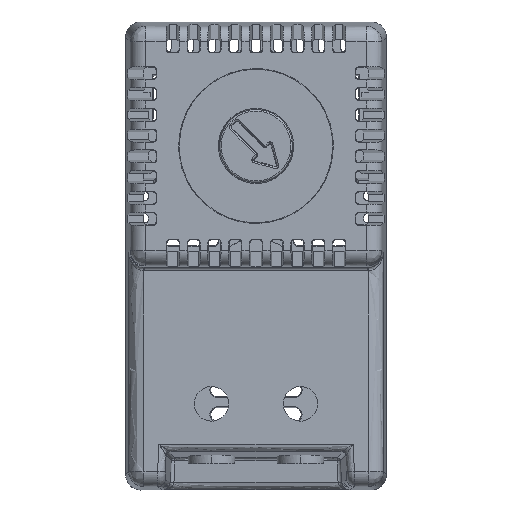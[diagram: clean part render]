
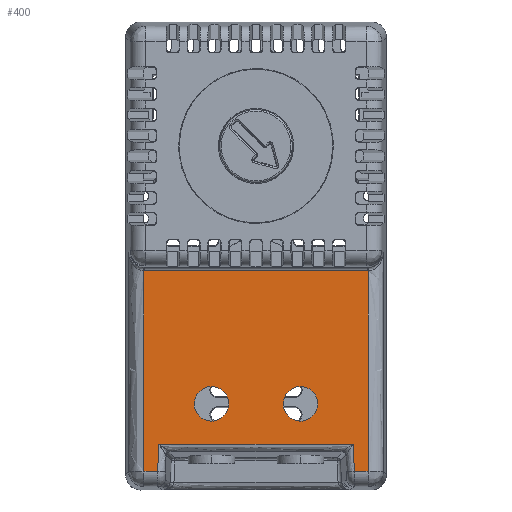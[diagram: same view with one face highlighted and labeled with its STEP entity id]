
A CAD part, top view. The second image highlights one B-rep face of the part: STEP entity #400.
In plain terms, the highlighted planar face has unit normal (0, 0, -1).
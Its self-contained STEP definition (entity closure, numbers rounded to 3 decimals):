
#38=FACE_BOUND($,#2435,.T.);
#39=FACE_BOUND($,#2436,.T.);
#400=ADVANCED_FACE($,(#1410,#38,#39),#15502,.T.);
#1410=FACE_OUTER_BOUND($,#2434,.T.);
#2434=EDGE_LOOP($,(#5380,#5381,#5382,#5383,#5384,#5385,#5386,#5387,#5388,
#5389));
#2435=EDGE_LOOP($,(#5390,#5391));
#2436=EDGE_LOOP($,(#5392,#5393));
#5380=ORIENTED_EDGE($,*,*,#10903,.T.);
#5381=ORIENTED_EDGE($,*,*,#11131,.F.);
#5382=ORIENTED_EDGE($,*,*,#11130,.F.);
#5383=ORIENTED_EDGE($,*,*,#10676,.T.);
#5384=ORIENTED_EDGE($,*,*,#11129,.F.);
#5385=ORIENTED_EDGE($,*,*,#11128,.F.);
#5386=ORIENTED_EDGE($,*,*,#10716,.T.);
#5387=ORIENTED_EDGE($,*,*,#11275,.F.);
#5388=ORIENTED_EDGE($,*,*,#10902,.F.);
#5389=ORIENTED_EDGE($,*,*,#10899,.F.);
#5390=ORIENTED_EDGE($,*,*,#11075,.F.);
#5391=ORIENTED_EDGE($,*,*,#11076,.F.);
#5392=ORIENTED_EDGE($,*,*,#11079,.F.);
#5393=ORIENTED_EDGE($,*,*,#11078,.F.);
#10676=EDGE_CURVE($,#13878,#13879,#16977,.T.);
#10716=EDGE_CURVE($,#13905,#13906,#17013,.T.);
#10899=EDGE_CURVE($,#13977,#13978,#19191,.T.);
#10902=EDGE_CURVE($,#13978,#13979,#17161,.T.);
#10903=EDGE_CURVE($,#13977,#13916,#17162,.T.);
#11075=EDGE_CURVE($,#14070,#14071,#19223,.T.);
#11076=EDGE_CURVE($,#14071,#14070,#19224,.T.);
#11078=EDGE_CURVE($,#14072,#14073,#19225,.T.);
#11079=EDGE_CURVE($,#14073,#14072,#19226,.T.);
#11128=EDGE_CURVE($,#13905,#14099,#17351,.T.);
#11129=EDGE_CURVE($,#14099,#13879,#17352,.T.);
#11130=EDGE_CURVE($,#13878,#13915,#17353,.T.);
#11131=EDGE_CURVE($,#13915,#13916,#17354,.T.);
#11275=EDGE_CURVE($,#13979,#13906,#19237,.T.);
#13878=VERTEX_POINT($,#28530);
#13879=VERTEX_POINT($,#28531);
#13905=VERTEX_POINT($,#28557);
#13906=VERTEX_POINT($,#28558);
#13915=VERTEX_POINT($,#28567);
#13916=VERTEX_POINT($,#28568);
#13977=VERTEX_POINT($,#28629);
#13978=VERTEX_POINT($,#28630);
#13979=VERTEX_POINT($,#28631);
#14070=VERTEX_POINT($,#28722);
#14071=VERTEX_POINT($,#28723);
#14072=VERTEX_POINT($,#28724);
#14073=VERTEX_POINT($,#28725);
#14099=VERTEX_POINT($,#28751);
#15502=PLANE($,#19916);
#16977=B_SPLINE_CURVE_WITH_KNOTS($,1,(#23588,#23589),.UNSPECIFIED.,.F.,.F.,
(2,2),(-25.292,0.),.UNSPECIFIED.);
#17013=B_SPLINE_CURVE_WITH_KNOTS($,1,(#23706,#23707),.UNSPECIFIED.,.F.,.F.,
(2,2),(0.,26.12),.UNSPECIFIED.);
#17161=B_SPLINE_CURVE_WITH_KNOTS($,1,(#24264,#24265),.UNSPECIFIED.,.F.,.F.,
(2,2),(-29.086,0.),.UNSPECIFIED.);
#17162=B_SPLINE_CURVE_WITH_KNOTS($,1,(#24266,#24267),.UNSPECIFIED.,.F.,.F.,
(2,2),(-26.12,0.),.UNSPECIFIED.);
#17351=B_SPLINE_CURVE_WITH_KNOTS($,1,(#24885,#24886),.UNSPECIFIED.,.F.,.F.,
(2,2),(-1.775,0.),.UNSPECIFIED.);
#17352=B_SPLINE_CURVE_WITH_KNOTS($,1,(#24887,#24888),.UNSPECIFIED.,.F.,.F.,
(2,2),(-3.546,0.),.UNSPECIFIED.);
#17353=B_SPLINE_CURVE_WITH_KNOTS($,1,(#24889,#24890),.UNSPECIFIED.,.F.,.F.,
(2,2),(0.,3.546),.UNSPECIFIED.);
#17354=B_SPLINE_CURVE_WITH_KNOTS($,1,(#24891,#24892),.UNSPECIFIED.,.F.,.F.,
(2,2),(0.,1.775),.UNSPECIFIED.);
#19191=(
BOUNDED_CURVE()
B_SPLINE_CURVE(3,(#24254,#24255,#24256,#24257),.UNSPECIFIED.,.F.,.F.)
B_SPLINE_CURVE_WITH_KNOTS((4,4),(-2.382,-2.357),.UNSPECIFIED.)
CURVE()
GEOMETRIC_REPRESENTATION_ITEM()
RATIONAL_B_SPLINE_CURVE((1.,1.,1.,1.))
REPRESENTATION_ITEM($)
);
#19223=(
BOUNDED_CURVE()
B_SPLINE_CURVE(2,(#24756,#24757,#24758,#24759,#24760),.UNSPECIFIED.,.F.,
.F.)
B_SPLINE_CURVE_WITH_KNOTS((3,2,3),(-7.069,-3.534,0.),
.UNSPECIFIED.)
CURVE()
GEOMETRIC_REPRESENTATION_ITEM()
RATIONAL_B_SPLINE_CURVE((1.,0.707,1.,0.707,1.))
REPRESENTATION_ITEM($)
);
#19224=(
BOUNDED_CURVE()
B_SPLINE_CURVE(2,(#24761,#24762,#24763,#24764,#24765),.UNSPECIFIED.,.F.,
.F.)
B_SPLINE_CURVE_WITH_KNOTS((3,2,3),(-14.137,-10.603,-7.069),
.UNSPECIFIED.)
CURVE()
GEOMETRIC_REPRESENTATION_ITEM()
RATIONAL_B_SPLINE_CURVE((1.,0.707,1.,0.707,1.))
REPRESENTATION_ITEM($)
);
#19225=(
BOUNDED_CURVE()
B_SPLINE_CURVE(2,(#24768,#24769,#24770,#24771,#24772),.UNSPECIFIED.,.F.,
.F.)
B_SPLINE_CURVE_WITH_KNOTS((3,2,3),(-7.069,-3.534,0.),
.UNSPECIFIED.)
CURVE()
GEOMETRIC_REPRESENTATION_ITEM()
RATIONAL_B_SPLINE_CURVE((1.,0.707,1.,0.707,1.))
REPRESENTATION_ITEM($)
);
#19226=(
BOUNDED_CURVE()
B_SPLINE_CURVE(2,(#24773,#24774,#24775,#24776,#24777),.UNSPECIFIED.,.F.,
.F.)
B_SPLINE_CURVE_WITH_KNOTS((3,2,3),(-14.137,-10.603,-7.069),
.UNSPECIFIED.)
CURVE()
GEOMETRIC_REPRESENTATION_ITEM()
RATIONAL_B_SPLINE_CURVE((1.,0.707,1.,0.707,1.))
REPRESENTATION_ITEM($)
);
#19237=(
BOUNDED_CURVE()
B_SPLINE_CURVE(3,(#25270,#25271,#25272,#25273),.UNSPECIFIED.,.F.,.F.)
B_SPLINE_CURVE_WITH_KNOTS((4,4),(-3.927,-3.901),.UNSPECIFIED.)
CURVE()
GEOMETRIC_REPRESENTATION_ITEM()
RATIONAL_B_SPLINE_CURVE((1.,1.,1.,1.))
REPRESENTATION_ITEM($)
);
#19916=AXIS2_PLACEMENT_3D($,#27038,#20511,$);
#20511=DIRECTION($,(0.,0.,-1.));
#23588=CARTESIAN_POINT($,(74.712,-66.273,16.5));
#23589=CARTESIAN_POINT($,(49.419,-66.273,16.5));
#23706=CARTESIAN_POINT($,(47.459,-69.815,16.5));
#23707=CARTESIAN_POINT($,(47.459,-43.694,16.5));
#24254=CARTESIAN_POINT($,(76.672,-43.694,16.5));
#24255=CARTESIAN_POINT($,(76.651,-43.695,16.5));
#24256=CARTESIAN_POINT($,(76.63,-43.695,16.5));
#24257=CARTESIAN_POINT($,(76.608,-43.695,16.5));
#24264=CARTESIAN_POINT($,(76.608,-43.695,16.5));
#24265=CARTESIAN_POINT($,(47.523,-43.695,16.5));
#24266=CARTESIAN_POINT($,(76.672,-43.694,16.5));
#24267=CARTESIAN_POINT($,(76.672,-69.815,16.5));
#24756=CARTESIAN_POINT($,(65.616,-61.018,16.5));
#24757=CARTESIAN_POINT($,(65.616,-58.768,16.5));
#24758=CARTESIAN_POINT($,(67.866,-58.768,16.5));
#24759=CARTESIAN_POINT($,(70.116,-58.768,16.5));
#24760=CARTESIAN_POINT($,(70.116,-61.018,16.5));
#24761=CARTESIAN_POINT($,(70.116,-61.018,16.5));
#24762=CARTESIAN_POINT($,(70.116,-63.268,16.5));
#24763=CARTESIAN_POINT($,(67.866,-63.268,16.5));
#24764=CARTESIAN_POINT($,(65.616,-63.268,16.5));
#24765=CARTESIAN_POINT($,(65.616,-61.018,16.5));
#24768=CARTESIAN_POINT($,(54.016,-61.018,16.5));
#24769=CARTESIAN_POINT($,(54.016,-58.768,16.5));
#24770=CARTESIAN_POINT($,(56.266,-58.768,16.5));
#24771=CARTESIAN_POINT($,(58.516,-58.768,16.5));
#24772=CARTESIAN_POINT($,(58.516,-61.018,16.5));
#24773=CARTESIAN_POINT($,(58.516,-61.018,16.5));
#24774=CARTESIAN_POINT($,(58.516,-63.268,16.5));
#24775=CARTESIAN_POINT($,(56.266,-63.268,16.5));
#24776=CARTESIAN_POINT($,(54.016,-63.268,16.5));
#24777=CARTESIAN_POINT($,(54.016,-61.018,16.5));
#24885=CARTESIAN_POINT($,(47.459,-69.815,16.5));
#24886=CARTESIAN_POINT($,(49.234,-69.815,16.5));
#24887=CARTESIAN_POINT($,(49.234,-69.815,16.5));
#24888=CARTESIAN_POINT($,(49.419,-66.273,16.5));
#24889=CARTESIAN_POINT($,(74.712,-66.273,16.5));
#24890=CARTESIAN_POINT($,(74.898,-69.815,16.5));
#24891=CARTESIAN_POINT($,(74.898,-69.815,16.5));
#24892=CARTESIAN_POINT($,(76.672,-69.815,16.5));
#25270=CARTESIAN_POINT($,(47.523,-43.695,16.5));
#25271=CARTESIAN_POINT($,(47.502,-43.695,16.5));
#25272=CARTESIAN_POINT($,(47.48,-43.695,16.5));
#25273=CARTESIAN_POINT($,(47.459,-43.694,16.5));
#27038=CARTESIAN_POINT($,(47.459,-69.815,16.5));
#28530=CARTESIAN_POINT($,(74.712,-66.273,16.5));
#28531=CARTESIAN_POINT($,(49.419,-66.273,16.5));
#28557=CARTESIAN_POINT($,(47.459,-69.815,16.5));
#28558=CARTESIAN_POINT($,(47.459,-43.694,16.5));
#28567=CARTESIAN_POINT($,(74.898,-69.815,16.5));
#28568=CARTESIAN_POINT($,(76.672,-69.815,16.5));
#28629=CARTESIAN_POINT($,(76.672,-43.694,16.5));
#28630=CARTESIAN_POINT($,(76.608,-43.695,16.5));
#28631=CARTESIAN_POINT($,(47.523,-43.695,16.5));
#28722=CARTESIAN_POINT($,(65.616,-61.018,16.5));
#28723=CARTESIAN_POINT($,(70.116,-61.018,16.5));
#28724=CARTESIAN_POINT($,(54.016,-61.018,16.5));
#28725=CARTESIAN_POINT($,(58.516,-61.018,16.5));
#28751=CARTESIAN_POINT($,(49.234,-69.815,16.5));
